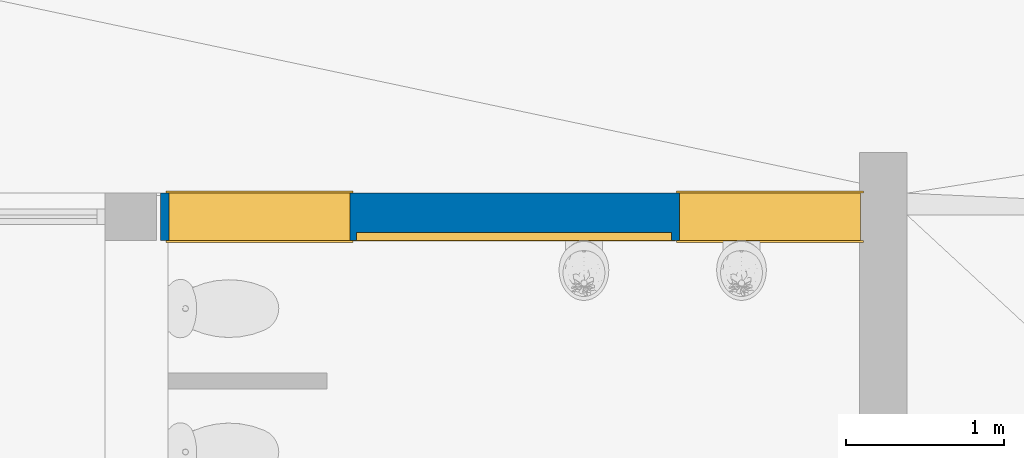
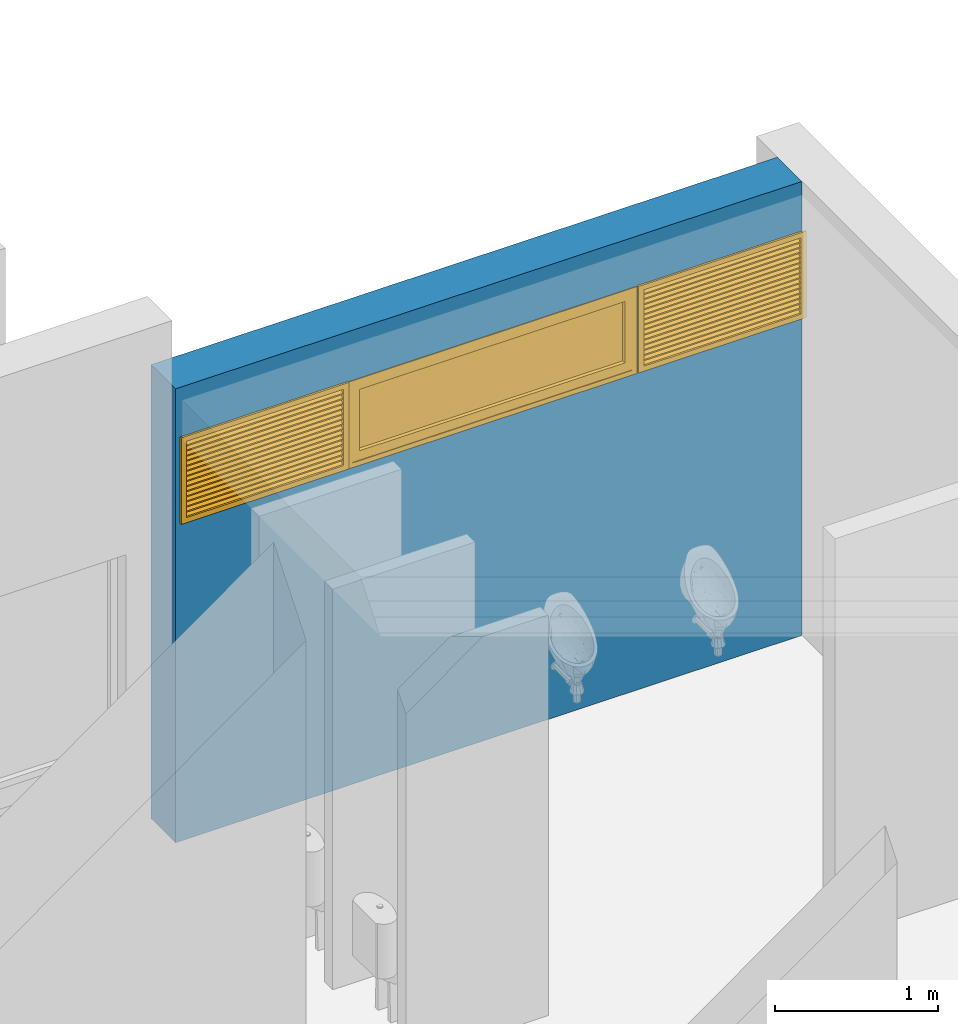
# One storey, part 82 of 117: 3 windows, 1 wall, 3 openings.
"""IFC4 building model written with IfcOpenShell, lengths in metres."""

from ifc_helpers import new_model, entity, si_unit, converted_unit, derived_unit, direction, frame, origin, place, context, subcontext, project, spatial, indexed_curve, outline, extrude, polygons, source, transform, mapped, material, constituent, constituent_set, type_object, type_shapes, element, fill, save


model = new_model("IFC4")

# Units and contexts
model_context = context("Model", 3, precision=1e-05, world=origin(), true_north=direction((6.123031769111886e-17, 1.0)))
body_context = subcontext(model_context, "Body", "Model", "MODEL_VIEW")
ifc_project = project(units=[si_unit("LENGTHUNIT", "METRE"), si_unit("AREAUNIT", "SQUARE_METRE"), si_unit("VOLUMEUNIT", "CUBIC_METRE"), converted_unit("PLANEANGLEUNIT", "DEGREE", entity("IfcRatioMeasure", 0.017453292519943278), si_unit("PLANEANGLEUNIT", "RADIAN"), dimensions=[0, 0, 0, 0, 0, 0, 0]), si_unit("MASSUNIT", "GRAM", prefix="KILO"), derived_unit("MASSDENSITYUNIT", [(si_unit("MASSUNIT", "GRAM", prefix="KILO"), 1), (si_unit("LENGTHUNIT", "METRE"), -3)]), derived_unit("MOMENTOFINERTIAUNIT", [(si_unit("LENGTHUNIT", "METRE"), 4)]), si_unit("TIMEUNIT", "SECOND"), si_unit("FREQUENCYUNIT", "HERTZ"), si_unit("THERMODYNAMICTEMPERATUREUNIT", "DEGREE_CELSIUS"), derived_unit("THERMALTRANSMITTANCEUNIT", [(si_unit("MASSUNIT", "GRAM", prefix="KILO"), 1), (si_unit("THERMODYNAMICTEMPERATUREUNIT", "KELVIN"), -1), (si_unit("TIMEUNIT", "SECOND"), -3)]), derived_unit("VOLUMETRICFLOWRATEUNIT", [(si_unit("LENGTHUNIT", "METRE"), 3), (si_unit("TIMEUNIT", "SECOND"), -1)]), derived_unit("MASSFLOWRATEUNIT", [(si_unit("MASSUNIT", "GRAM", prefix="KILO"), 1), (si_unit("TIMEUNIT", "SECOND"), -1)]), derived_unit("ROTATIONALFREQUENCYUNIT", [(si_unit("TIMEUNIT", "SECOND"), -1)]), si_unit("ELECTRICCURRENTUNIT", "AMPERE"), si_unit("ELECTRICVOLTAGEUNIT", "VOLT"), si_unit("POWERUNIT", "WATT"), si_unit("FORCEUNIT", "NEWTON", prefix="KILO"), si_unit("ILLUMINANCEUNIT", "LUX"), si_unit("LUMINOUSFLUXUNIT", "LUMEN"), si_unit("LUMINOUSINTENSITYUNIT", "CANDELA"), derived_unit("USERDEFINED", [(si_unit("MASSUNIT", "GRAM", prefix="KILO"), -1), (si_unit("LENGTHUNIT", "METRE"), -2), (si_unit("TIMEUNIT", "SECOND"), 3), (si_unit("LUMINOUSFLUXUNIT", "LUMEN"), 1)]), derived_unit("SOUNDPOWERUNIT", [(si_unit("MASSUNIT", "GRAM", prefix="KILO"), 1), (si_unit("LENGTHUNIT", "METRE"), 2), (si_unit("TIMEUNIT", "SECOND"), -3)]), derived_unit("SOUNDPRESSUREUNIT", [(si_unit("MASSUNIT", "GRAM", prefix="KILO"), 1), (si_unit("LENGTHUNIT", "METRE"), -1), (si_unit("TIMEUNIT", "SECOND"), -2)]), derived_unit("LINEARVELOCITYUNIT", [(si_unit("LENGTHUNIT", "METRE"), 1), (si_unit("TIMEUNIT", "SECOND"), -1)]), si_unit("PRESSUREUNIT", "PASCAL"), derived_unit("USERDEFINED", [(si_unit("LENGTHUNIT", "METRE"), -2), (si_unit("MASSUNIT", "GRAM", prefix="KILO"), 1), (si_unit("TIMEUNIT", "SECOND"), -2)]), derived_unit("LINEARFORCEUNIT", [(si_unit("MASSUNIT", "GRAM", prefix="KILO"), 1), (si_unit("LENGTHUNIT", "METRE"), 1), (si_unit("TIMEUNIT", "SECOND"), -2), (si_unit("LENGTHUNIT", "METRE"), -1)]), derived_unit("PLANARFORCEUNIT", [(si_unit("MASSUNIT", "GRAM", prefix="KILO"), 1), (si_unit("LENGTHUNIT", "METRE"), 1), (si_unit("TIMEUNIT", "SECOND"), -2), (si_unit("LENGTHUNIT", "METRE"), -2)])], contexts=[model_context])

# Site, building, storey
site_placement = place(None, origin())
site = spatial("IfcSite", under=ifc_project, at=site_placement, Name="Superficie", CompositionType="ELEMENT")
building_placement = place(site_placement, origin())
building = spatial("IfcBuilding", under=site, at=building_placement, CompositionType="ELEMENT")
storey_placement = place(building_placement, origin())
storey = spatial("IfcBuildingStorey", under=building, at=storey_placement, Name="Nivel 0", CompositionType="ELEMENT", Elevation=0.0)

# Wall, openings, windows
ifc_material_1 = material(Name="Muro por defecto", Category="Varios")
wall_type = type_object("IfcWallType", Name="Muro básico:Por defecto - 30 cm", PredefinedType="STANDARD")
wall_placement = place(storey_placement, frame((20.939299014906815, 12.734548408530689, 0.0)))
wall = element("IfcWall", 1, at=wall_placement, inside=storey, type_object=wall_type, material=ifc_material_1, Name="Muro básico:Por defecto - 30 cm", ObjectType="Muro básico:Por defecto - 30 cm", PredefinedType="NOTDEFINED", context=body_context, shape_type="Tessellation", body=[
    polygons([(-1.4244066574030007e-15, -0.15000000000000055, 0.0), (4.437499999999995, -0.15000000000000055, 0.0), (4.437499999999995, -0.15000000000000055, 2.3999999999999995), (3.292499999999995, -0.15000000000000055, 2.3999999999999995), (3.292499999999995, -0.15000000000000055, 3.009600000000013), (4.437499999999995, -0.15000000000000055, 3.009600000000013), (4.437499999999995, -0.15000000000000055, 3.4), (-1.4244066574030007e-15, -0.15000000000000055, 3.4), (0.05249999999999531, -0.15000000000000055, 3.009600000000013), (1.2024999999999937, -0.15000000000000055, 3.009600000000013), (1.2024999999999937, -0.15000000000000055, 2.3999999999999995), (0.05249999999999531, -0.15000000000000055, 2.3999999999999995), (3.2424999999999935, -0.15000000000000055, 2.4000000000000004), (1.2424999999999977, -0.15000000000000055, 2.4000000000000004), (1.2424999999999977, -0.15000000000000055, 3.0000000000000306), (3.2424999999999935, -0.15000000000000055, 3.0000000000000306), (4.437499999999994, 0.15000000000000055, 0.0), (-2.2844173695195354e-15, 0.15000000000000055, 0.0), (-2.2844173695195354e-15, 0.15000000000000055, 3.4), (4.437499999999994, 0.15000000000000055, 3.4), (4.437499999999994, 0.15000000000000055, 3.009600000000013), (3.292499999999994, 0.15000000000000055, 3.009600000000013), (3.292499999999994, 0.15000000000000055, 2.3999999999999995), (4.437499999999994, 0.15000000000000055, 2.3999999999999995), (0.05249999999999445, 0.15000000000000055, 3.009600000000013), (0.05249999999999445, 0.15000000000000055, 2.3999999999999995), (1.2024999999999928, 0.15000000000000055, 2.3999999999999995), (1.2024999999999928, 0.15000000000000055, 3.009600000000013), (3.2424999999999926, 0.15000000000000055, 2.4000000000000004), (3.2424999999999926, 0.15000000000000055, 3.0000000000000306), (1.2424999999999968, 0.15000000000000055, 3.0000000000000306), (1.2424999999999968, 0.15000000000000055, 2.4000000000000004)], [[[1, 2, 3, 4, 5, 6, 7, 8], [9, 10, 11, 12], [13, 14, 15, 16]], [[17, 18, 19, 20, 21, 22, 23, 24], [25, 26, 27, 28], [29, 30, 31, 32]], [[2, 1, 18, 17]], [[8, 7, 20, 19]], [[1, 8, 19, 18]], [[2, 17, 24, 3]], [[25, 28, 10, 9]], [[28, 27, 11, 10]], [[27, 26, 12, 11]], [[26, 25, 9, 12]], [[29, 32, 14, 13]], [[32, 31, 15, 14]], [[31, 30, 16, 15]], [[30, 29, 13, 16]], [[22, 5, 4, 23]], [[23, 4, 3, 24]], [[5, 22, 21, 6]], [[20, 7, 6, 21]]], closed=True),
])
opening_1_placement = place(wall_placement, frame((4.4424999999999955, 0.14999999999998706, 2.3999999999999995)))
opening_1 = element("IfcOpeningElement", 2, at=opening_1_placement, cuts=wall, Name="Deflector de ventilación simple:60 x 1.15mm 2:1", PredefinedType="OPENING", context=body_context, shape_type="SweptSolid", body=[
    extrude(outline(indexed_curve([(0.6096000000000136, 1.1499999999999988), (0.0, 1.1499999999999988), (0.0, -1.0110429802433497e-29), (0.6096000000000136, -1.0110429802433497e-29), (0.6096000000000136, 1.1499999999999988)], self_intersect=False)), frame((0.0, 0.0, 0.0), z_axis=(0.0, -1.0, 0.0), x_axis=(0.0, 0.0, 1.0)), (0.0, 0.0, 1.0), 0.30000000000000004),
])
opening_2_placement = place(wall_placement, frame((1.2024999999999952, 0.14999999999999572, 2.3999999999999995)))
opening_2 = element("IfcOpeningElement", 3, at=opening_2_placement, cuts=wall, Name="Deflector de ventilación simple:60 x 1.15mm 2:1", PredefinedType="OPENING", context=body_context, shape_type="SweptSolid", body=[
    extrude(outline(indexed_curve([(0.6096000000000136, 1.1499999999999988), (0.0, 1.1499999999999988), (0.0, -1.0110429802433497e-29), (0.6096000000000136, -1.0110429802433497e-29), (0.6096000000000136, 1.1499999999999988)], self_intersect=False)), frame((0.0, 0.0, 0.0), z_axis=(0.0, -1.0, 0.0), x_axis=(0.0, 0.0, 1.0)), (0.0, 0.0, 1.0), 0.30000000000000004),
])
opening_3_placement = place(wall_placement, frame((1.242499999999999, -0.1500000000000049, 2.4000000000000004)))
opening_3 = element("IfcOpeningElement", 4, at=opening_3_placement, cuts=wall, Name="Ventana simple fija con cubrejuntas interior:0.6 x 2.05mm 2:1", PredefinedType="OPENING", context=body_context, shape_type="SweptSolid", body=[
    extrude(outline(indexed_curve([(0.0, 1.9999999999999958), (0.0, -4.85040276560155e-32), (0.6000000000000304, -4.85040276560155e-32), (0.6000000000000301, 1.9999999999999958), (0.0, 1.9999999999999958)], self_intersect=False)), frame((0.0, 0.0, 0.0), z_axis=(0.0, 1.0, 0.0), x_axis=(0.0, 0.0, 1.0)), (0.0, 0.0, 1.0), 0.30000000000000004),
])
ifc_material_2 = material(Name="Madera - Abedul", Category="Madera")
window_type_1 = type_object("IfcWindowType", Name="Deflector de ventilación simple:60 x 1.15mm 2", PartitioningType="NOTDEFINED", PredefinedType="WINDOW", material=ifc_material_2)
shared_shape_1 = source(origin(), body_context, "Body", "SweptSolid", [
    extrude(outline(indexed_curve([(-0.593949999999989, -0.3237500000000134), (0.593949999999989, -0.3237500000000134), (0.593949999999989, 0.3237500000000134), (-0.593949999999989, 0.3237500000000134), (-0.593949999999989, -0.3237500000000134)], self_intersect=False), holes=[indexed_curve([(-0.5559500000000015, -0.28575000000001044), (-0.5559500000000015, 0.28575000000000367), (0.5559499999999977, 0.28575000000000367), (0.5559499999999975, -0.28575000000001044), (-0.5559500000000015, -0.28575000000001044)], self_intersect=False)]), frame((0.5750000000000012, 0.3000000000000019, 0.30480000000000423), z_axis=(0.0, 1.0, 0.0), x_axis=(1.0, 0.0, 0.0)), (0.0, 0.0, 1.0), 0.012999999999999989),
    extrude(outline(indexed_curve([(-0.3237500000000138, -0.5939499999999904), (0.3237500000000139, -0.5939499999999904), (0.3237500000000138, 0.5939499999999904), (-0.3237500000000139, 0.5939499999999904), (-0.3237500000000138, -0.5939499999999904)], self_intersect=False), holes=[indexed_curve([(-0.2857500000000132, -0.5559499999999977), (-0.2857500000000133, 0.5559499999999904), (0.28575000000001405, 0.5559499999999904), (0.28575000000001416, -0.5559499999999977), (-0.2857500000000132, -0.5559499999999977)], self_intersect=False)]), frame((0.5750000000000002, -0.012999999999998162, 0.30480000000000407), z_axis=(0.0, 1.0, 0.0), x_axis=(0.0, 0.0, -1.0)), (0.0, 0.0, 1.0), 0.012999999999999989),
    extrude(outline(indexed_curve([(-0.3048000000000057, -0.575), (0.3048000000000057, -0.575), (0.3048000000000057, 0.575), (-0.3048000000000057, 0.575), (-0.3048000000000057, -0.575)], self_intersect=False), holes=[indexed_curve([(-0.2857500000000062, -0.5559499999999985), (-0.2857500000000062, 0.5559500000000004), (0.2857500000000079, 0.5559500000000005), (0.2857500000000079, -0.5559499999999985), (-0.2857500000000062, -0.5559499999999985)], self_intersect=False)]), frame((0.5750000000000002, 0.0, 0.3048000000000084), z_axis=(0.0, 1.0, 0.0), x_axis=(0.0, 0.0, -1.0)), (0.0, 0.0, 1.0), 0.30000000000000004),
    extrude(outline(indexed_curve([(-0.0201083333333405, -0.02010833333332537), (0.030691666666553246, -0.020108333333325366), (0.0370416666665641, -0.013758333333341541), (-0.01375833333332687, -0.013758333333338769), (-0.013758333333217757, 0.03704166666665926), (-0.020108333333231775, 0.030691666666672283), (-0.0201083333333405, -0.02010833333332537)], self_intersect=False)), frame((0.019050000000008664, 0.2640789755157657, 0.5598335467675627), z_axis=(1.0, 0.0, 0.0), x_axis=(0.0, -0.7071067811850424, -0.7071067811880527)), (0.0, 0.0, 1.0), 1.1118999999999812),
    extrude(outline(indexed_curve([(-0.017991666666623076, -0.017991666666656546), (0.03280833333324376, -0.01799166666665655), (0.02645833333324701, -0.011641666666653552), (-0.011641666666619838, -0.01164166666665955), (-0.011641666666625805, 0.026458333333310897), (-0.017991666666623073, 0.032808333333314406), (-0.017991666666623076, -0.017991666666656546)], self_intersect=False)), frame((0.019050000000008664, 0.2640789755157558, 0.029526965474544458), z_axis=(1.0, 0.0, 0.0), x_axis=(0.0, -0.7071067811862, -0.7071067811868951)), (0.0, 0.0, 1.0), 1.1118999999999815),
    extrude(outline(indexed_curve([(-0.020108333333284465, -0.020108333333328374), (0.03069166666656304, -0.020108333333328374), (0.037041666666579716, -0.01375833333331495), (-0.01375833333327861, -0.013758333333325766), (-0.013758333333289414, 0.037041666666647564), (-0.020108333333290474, 0.03069166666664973), (-0.020108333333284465, -0.020108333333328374)], self_intersect=False)), frame((0.019050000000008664, 0.26407897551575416, 0.06463354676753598), z_axis=(1.0, 0.0, 0.0), x_axis=(0.0, -0.7071067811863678, -0.7071067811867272)), (0.0, 0.0, 1.0), 1.1118999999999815),
    extrude(outline(indexed_curve([(-0.02010833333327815, -0.020108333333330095), (0.030691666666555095, -0.020108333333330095), (0.037041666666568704, -0.013758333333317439), (-0.013758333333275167, -0.013758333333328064), (-0.01375833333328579, 0.03704166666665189), (-0.020108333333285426, 0.030691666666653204), (-0.02010833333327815, -0.020108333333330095)], self_intersect=False)), frame((0.019050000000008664, 0.2640789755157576, 0.1027335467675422), z_axis=(1.0, 0.0, 0.0), x_axis=(0.0, -0.7071067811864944, -0.7071067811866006)), (0.0, 0.0, 1.0), 1.1118999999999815),
    extrude(outline(indexed_curve([(-0.020108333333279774, -0.020108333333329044), (0.030691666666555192, -0.020108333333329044), (0.03704166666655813, -0.013758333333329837), (-0.013758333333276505, -0.013758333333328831), (-0.013758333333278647, 0.0370416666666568), (-0.02010833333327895, 0.030691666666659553), (-0.020108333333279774, -0.020108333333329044)], self_intersect=False)), frame((0.019050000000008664, 0.2640789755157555, 0.14083354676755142), z_axis=(1.0, 0.0, 0.0), x_axis=(0.0, -0.7071067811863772, -0.7071067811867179)), (0.0, 0.0, 1.0), 1.1118999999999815),
    extrude(outline(indexed_curve([(-0.020108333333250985, -0.020108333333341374), (0.030691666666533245, -0.020108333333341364), (0.03704166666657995, -0.013758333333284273), (-0.013758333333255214, -0.013758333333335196), (-0.0137583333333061, 0.03704166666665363), (-0.02010833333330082, 0.030691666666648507), (-0.020108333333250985, -0.020108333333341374)], self_intersect=False)), frame((0.019050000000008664, 0.26407897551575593, 0.17893354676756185), z_axis=(1.0, 0.0, 0.0), x_axis=(0.0, -0.7071067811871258, -0.7071067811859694)), (0.0, 0.0, 1.0), 1.1118999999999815),
    extrude(outline(indexed_curve([(-0.020108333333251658, -0.020108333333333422), (0.030691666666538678, -0.02010833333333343), (0.037041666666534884, -0.01375833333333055), (-0.013758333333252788, -0.013758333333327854), (-0.013758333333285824, 0.03704166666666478), (-0.020108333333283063, 0.030691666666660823), (-0.020108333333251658, -0.020108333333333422)], self_intersect=False)), frame((0.019050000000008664, 0.2640789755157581, 0.21703354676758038), z_axis=(1.0, 0.0, 0.0), x_axis=(0.0, -0.7071067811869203, -0.7071067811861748)), (0.0, 0.0, 1.0), 1.1118999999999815),
    extrude(outline(indexed_curve([(-0.020108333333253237, -0.020108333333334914), (0.030691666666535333, -0.020108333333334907), (0.037041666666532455, -0.013758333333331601), (-0.013758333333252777, -0.01375833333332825), (-0.013758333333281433, 0.03704166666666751), (-0.02010833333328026, 0.030691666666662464), (-0.020108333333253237, -0.020108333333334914)], self_intersect=False)), frame((0.019050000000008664, 0.26407897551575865, 0.2551335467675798), z_axis=(1.0, 0.0, 0.0), x_axis=(0.0, -0.7071067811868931, -0.707106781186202)), (0.0, 0.0, 1.0), 1.1118999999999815),
    extrude(outline(indexed_curve([(-0.020108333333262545, -0.02010833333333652), (0.030691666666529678, -0.02010833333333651), (0.037041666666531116, -0.01375833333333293), (-0.01375833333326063, -0.01375833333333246), (-0.013758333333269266, 0.03704166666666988), (-0.020108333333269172, 0.030691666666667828), (-0.020108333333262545, -0.02010833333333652)], self_intersect=False)), frame((0.019050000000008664, 0.2640789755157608, 0.29323354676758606), z_axis=(1.0, 0.0, 0.0), x_axis=(0.0, -0.7071067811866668, -0.7071067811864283)), (0.0, 0.0, 1.0), 1.1118999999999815),
    extrude(outline(indexed_curve([(-0.020108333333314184, -0.020108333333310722), (0.030691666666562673, -0.020108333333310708), (0.03704166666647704, -0.0137583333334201), (-0.013758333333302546, -0.013758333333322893), (-0.01375833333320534, 0.03704166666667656), (-0.02010833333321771, 0.03069166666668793), (-0.020108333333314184, -0.020108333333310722)], self_intersect=False)), frame((0.019050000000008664, 0.2640789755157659, 0.3313335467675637), z_axis=(1.0, 0.0, 0.0), x_axis=(0.0, -0.7071067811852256, -0.7071067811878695)), (0.0, 0.0, 1.0), 1.1118999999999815),
    extrude(outline(indexed_curve([(-0.020108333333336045, -0.02010833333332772), (0.030691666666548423, -0.02010833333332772), (0.03704166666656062, -0.013758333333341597), (-0.013758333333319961, -0.013758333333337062), (-0.01375833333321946, 0.03704166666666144), (-0.02010833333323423, 0.03069166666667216), (-0.020108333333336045, -0.02010833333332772)], self_intersect=False)), frame((0.019050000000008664, 0.2640789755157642, 0.3694335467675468), z_axis=(1.0, 0.0, 0.0), x_axis=(0.0, -0.7071067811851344, -0.7071067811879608)), (0.0, 0.0, 1.0), 1.1118999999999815),
    extrude(outline(indexed_curve([(-0.020108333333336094, -0.020108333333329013), (0.030691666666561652, -0.02010833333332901), (0.03704166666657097, -0.01375833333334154), (-0.013758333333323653, -0.013758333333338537), (-0.013758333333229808, 0.03704166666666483), (-0.020108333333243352, 0.03069166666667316), (-0.020108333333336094, -0.020108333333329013)], self_intersect=False)), frame((0.019050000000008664, 0.26407897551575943, 0.4075335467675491), z_axis=(1.0, 0.0, 0.0), x_axis=(0.0, -0.7071067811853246, -0.7071067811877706)), (0.0, 0.0, 1.0), 1.1118999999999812),
    extrude(outline(indexed_curve([(-0.02010833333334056, -0.020108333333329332), (0.03069166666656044, -0.020108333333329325), (0.03704166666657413, -0.013758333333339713), (-0.013758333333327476, -0.013758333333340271), (-0.013758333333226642, 0.037041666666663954), (-0.020108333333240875, 0.03069166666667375), (-0.02010833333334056, -0.020108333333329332)], self_intersect=False)), frame((0.019050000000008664, 0.26407897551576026, 0.4456335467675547), z_axis=(1.0, 0.0, 0.0), x_axis=(0.0, -0.70710678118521, -0.7071067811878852)), (0.0, 0.0, 1.0), 1.1118999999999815),
    extrude(outline(indexed_curve([(-0.020108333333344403, -0.02010833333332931), (0.030691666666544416, -0.02010833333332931), (0.037041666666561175, -0.013758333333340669), (-0.013758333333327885, -0.013758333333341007), (-0.013758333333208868, 0.03704166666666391), (-0.020108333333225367, 0.030691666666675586), (-0.020108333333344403, -0.02010833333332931)], self_intersect=False)), frame((0.019050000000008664, 0.26407897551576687, 0.4837335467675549), z_axis=(1.0, 0.0, 0.0), x_axis=(0.0, -0.7071067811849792, -0.707106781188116)), (0.0, 0.0, 1.0), 1.1118999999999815),
    extrude(outline(indexed_curve([(-0.02002144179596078, -0.020077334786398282), (0.030707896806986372, -0.020077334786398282), (0.03704903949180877, -0.013718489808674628), (-0.013750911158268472, -0.013789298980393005), (-0.013821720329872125, 0.037010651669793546), (-0.020162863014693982, 0.030651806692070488), (-0.02002144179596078, -0.020077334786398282)], self_intersect=False)), frame((0.019050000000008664, 0.26407897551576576, 0.5218168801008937), z_axis=(1.0, 0.0, 0.0), x_axis=(0.0, -0.7080917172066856, -0.7061204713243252)), (0.0, 0.0, 1.0), 1.1118999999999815),
])
type_shapes(window_type_1, [shared_shape_1])
window_1_placement = place(opening_1_placement, frame((0.0, 0.0, 0.0), z_axis=(0.0, 0.0, 1.0), x_axis=(-1.0, 0.0, 0.0)))
window_1 = element("IfcWindow", 5, at=window_1_placement, inside=storey, type_object=window_type_1, material=ifc_material_2, Name="Deflector de ventilación simple:60 x 1.15mm 2", ObjectType="Deflector de ventilación simple:60 x 1.15mm 2", OverallHeight=0.6096000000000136, OverallWidth=1.1499999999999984, PartitioningType="NOTDEFINED", PredefinedType="WINDOW", context=body_context, shape_type="MappedRepresentation", body=[
    mapped(shared_shape_1, transform((0.0, 0.0, 0.0), scale=1.0)),
])
fill(opening_1, window_1)
window_2_placement = place(opening_2_placement, frame((0.0, 0.0, 0.0), z_axis=(0.0, 0.0, 1.0), x_axis=(-1.0, 0.0, 0.0)))
window_2 = element("IfcWindow", 6, at=window_2_placement, inside=storey, type_object=window_type_1, material=ifc_material_2, Name="Deflector de ventilación simple:60 x 1.15mm 2", ObjectType="Deflector de ventilación simple:60 x 1.15mm 2", OverallHeight=0.6096000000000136, OverallWidth=1.1499999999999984, PartitioningType="NOTDEFINED", PredefinedType="WINDOW", context=body_context, shape_type="MappedRepresentation", body=[
    mapped(shared_shape_1, transform((0.0, 0.0, 0.0), scale=1.0)),
])
fill(opening_2, window_2)
ifc_material_3 = material(Name="Madera - Castaño", Category="Madera")
ifc_constituent_1 = constituent(ifc_material_3, Name="Madera - Castaño", Category="Madera")
ifc_material_4 = material(Name="Vidrio", Category="Vidrio")
ifc_constituent_2 = constituent(ifc_material_4, Name="Vidrio", Category="Vidrio")
ifc_constituent_set_1 = constituent_set(constituents=[ifc_constituent_1, ifc_constituent_2], Name="MaterialConstituentSet")
ifc_constituent_3 = constituent(ifc_material_3, Name="Marco/montante", Category="Madera")
ifc_constituent_4 = constituent(ifc_material_4, Name="Cristal", Category="Vidrio")
ifc_constituent_set_2 = constituent_set(constituents=[ifc_constituent_3, ifc_constituent_4], Name="MaterialConstituentSet")
window_type_2 = type_object("IfcWindowType", Name="Ventana simple fija con cubrejuntas interior:0.6 x 2.05mm 2", PartitioningType="NOTDEFINED", PredefinedType="WINDOW", material=ifc_constituent_set_2)
shared_shape_2 = source(origin(), body_context, "Body", "Tessellation", [
    polygons([(1.6784440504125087e-14, 0.05, 0.5999999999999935), (1.7055157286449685e-14, 0.049999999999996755, -6.767919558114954e-16), (1.7190515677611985e-14, -6.497202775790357e-15, -6.767919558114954e-16), (1.7190515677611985e-14, 0.0, 0.5999999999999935), (1.965000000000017, 0.0, 0.5649999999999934), (1.965000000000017, 0.0, 0.055000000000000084), (0.03500000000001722, 0.0, 0.055000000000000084), (0.03500000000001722, 0.0, 0.5649999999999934), (2.0000000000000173, -4.331468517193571e-15, -6.767919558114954e-16), (2.000000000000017, 0.0, 0.5999999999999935), (2.0000000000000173, 0.05, -6.767919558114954e-16), (2.0000000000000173, 0.05, 0.5999999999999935), (0.06000000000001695, 0.05, 0.5399999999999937), (0.06000000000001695, 0.05, 0.07999999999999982), (1.940000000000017, 0.05, 0.07999999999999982), (1.9400000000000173, 0.05, 0.5399999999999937), (0.06000000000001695, 0.03999999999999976, 0.5399999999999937), (0.06000000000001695, 0.03999999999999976, 0.07999999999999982), (1.9400000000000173, 0.03999999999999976, 0.07999999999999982), (1.9400000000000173, 0.03999999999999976, 0.5399999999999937), (0.03500000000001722, 0.03999999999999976, 0.5649999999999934), (0.03500000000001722, 0.03999999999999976, 0.055000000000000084), (1.9650000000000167, 0.03999999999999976, 0.055000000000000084), (1.965000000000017, 0.03999999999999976, 0.5649999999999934)], [[[1, 2, 3, 4]], [[3, 9, 10, 4], [5, 6, 7, 8]], [[9, 3, 2, 11]], [[11, 2, 1, 12], [13, 14, 15, 16]], [[17, 18, 14, 13]], [[18, 19, 15, 14]], [[21, 22, 23, 24], [20, 19, 18, 17]], [[8, 7, 22, 21]], [[7, 6, 23, 22]], [[16, 15, 19, 20]], [[24, 23, 6, 5]], [[10, 9, 11, 12]], [[12, 1, 4, 10]], [[20, 17, 13, 16]], [[5, 8, 21, 24]]], closed=True),
    polygons([(0.060000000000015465, -1.852717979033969e-14, 0.5399999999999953), (0.06000000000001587, -1.852717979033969e-14, 0.07999999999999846), (0.060000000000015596, 0.02600000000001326, 0.07999999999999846), (0.060000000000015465, 0.02600000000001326, 0.5399999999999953), (1.9400000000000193, 0.02600000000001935, 0.5399999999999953), (1.9400000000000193, 0.02600000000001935, 0.0799999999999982), (0.035000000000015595, 0.026000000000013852, 0.5649999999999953), (1.965000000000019, 0.0260000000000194, 0.5649999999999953), (1.9650000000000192, 0.026000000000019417, 0.05499999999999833), (0.035000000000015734, 0.026000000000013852, 0.05499999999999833), (1.9400000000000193, -1.3079004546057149e-14, 0.0799999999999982), (1.9400000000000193, -1.3079004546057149e-14, 0.5399999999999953), (1.965000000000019, -1.3045164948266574e-14, 0.5649999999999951), (0.035000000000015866, -1.9288570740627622e-14, 0.5649999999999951), (0.035000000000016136, -1.9271650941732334e-14, 0.05499999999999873), (1.965000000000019, -1.3045164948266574e-14, 0.05499999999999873)], [[[1, 2, 3, 4]], [[7, 8, 9, 10], [5, 4, 3, 6]], [[2, 11, 6, 3]], [[13, 14, 15, 16], [1, 12, 11, 2]], [[7, 10, 15, 14]], [[10, 9, 16, 15]], [[11, 12, 5, 6]], [[9, 8, 13, 16]], [[12, 1, 4, 5]], [[8, 7, 14, 13]]], closed=True),
    polygons([(1.9550000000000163, 0.026000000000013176, 0.06499999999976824), (0.045000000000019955, 0.026000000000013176, 0.06499999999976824), (0.045000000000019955, 0.04000000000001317, 0.06499999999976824), (1.9550000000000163, 0.04000000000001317, 0.06499999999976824), (1.9550000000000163, 0.026000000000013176, 0.5549999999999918), (1.9550000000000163, 0.04000000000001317, 0.5549999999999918), (0.045000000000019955, 0.04000000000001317, 0.5549999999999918), (0.045000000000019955, 0.026000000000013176, 0.5549999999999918)], [[[1, 2, 3, 4]], [[5, 1, 4, 6]], [[6, 4, 3, 7]], [[7, 3, 2, 8]], [[8, 2, 1, 5]], [[5, 6, 7, 8]]], closed=True),
    polygons([(0.01000000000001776, -0.004999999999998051, 0.5899999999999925), (0.01000000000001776, -0.004999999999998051, 0.010000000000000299), (0.01000000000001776, -1.6919798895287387e-17, 0.010000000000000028), (0.01000000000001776, -1.6919798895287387e-17, 0.5899999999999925), (1.9900000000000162, -1.6919798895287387e-17, 0.5899999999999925), (1.9900000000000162, -1.6919798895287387e-17, 0.010000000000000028), (-0.024999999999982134, -1.6919798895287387e-17, 0.6249999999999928), (2.0250000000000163, -1.6919798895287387e-17, 0.6249999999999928), (2.0250000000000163, -1.6919798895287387e-17, -0.024999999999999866), (-0.024999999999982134, -1.6919798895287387e-17, -0.025000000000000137), (1.990000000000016, -0.004999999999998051, 0.010000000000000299), (1.990000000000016, -0.004999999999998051, 0.5899999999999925), (2.0250000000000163, -0.004999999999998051, 0.6249999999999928), (-0.024999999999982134, -0.004999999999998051, 0.6249999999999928), (-0.024999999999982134, -0.004999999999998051, -0.025000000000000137), (2.0250000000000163, -0.004999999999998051, -0.024999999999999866)], [[[1, 2, 3, 4]], [[7, 8, 9, 10], [5, 4, 3, 6]], [[2, 11, 6, 3]], [[13, 14, 15, 16], [1, 12, 11, 2]], [[7, 10, 15, 14]], [[10, 9, 16, 15]], [[11, 12, 5, 6]], [[9, 8, 13, 16]], [[12, 1, 4, 5]], [[8, 7, 14, 13]]], closed=True),
])
type_shapes(window_type_2, [shared_shape_2])
window_3_placement = place(opening_3_placement, origin())
window_3 = element("IfcWindow", 7, at=window_3_placement, inside=storey, type_object=window_type_2, material=ifc_constituent_set_1, Name="Ventana simple fija con cubrejuntas interior:0.6 x 2.05mm 2", ObjectType="Ventana simple fija con cubrejuntas interior:0.6 x 2.05mm 2", OverallHeight=0.6000000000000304, OverallWidth=2.0, PartitioningType="NOTDEFINED", PredefinedType="WINDOW", context=body_context, shape_type="MappedRepresentation", body=[
    mapped(shared_shape_2, transform((0.0, 0.0, 0.0), scale=1.0)),
])
fill(opening_3, window_3)

save(model, "model.ifc")
